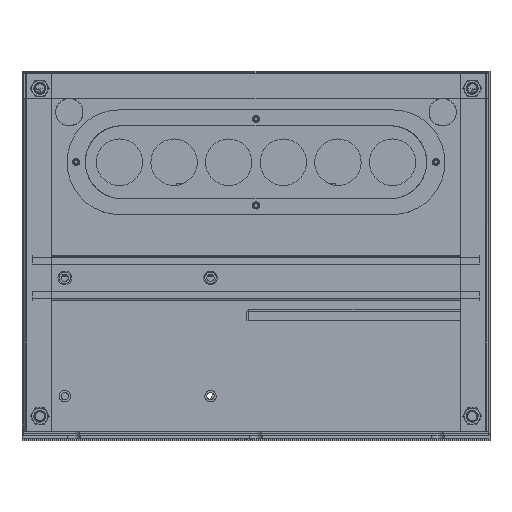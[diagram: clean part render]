
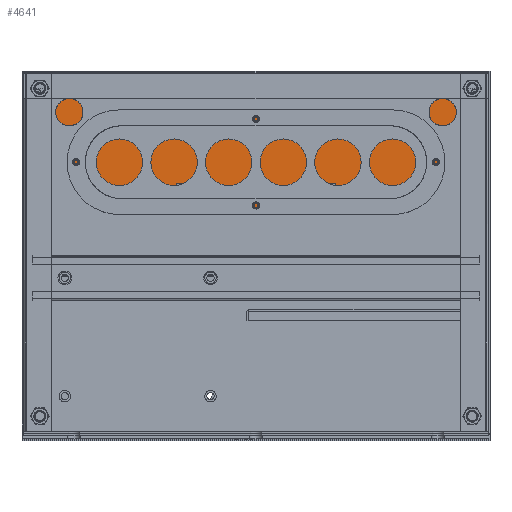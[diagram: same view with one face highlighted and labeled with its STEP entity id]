
A CAD part, top view. The second image highlights one B-rep face of the part: STEP entity #4641.
In plain terms, the highlighted planar face has unit normal (0, 0, 1).
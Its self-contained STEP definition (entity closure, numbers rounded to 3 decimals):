
#1187 = AXIS2_PLACEMENT_3D ( 'NONE', #48820, #60878, #25039 ) ;
#1291 = LINE ( 'NONE', #16608, #15888 ) ;
#4641 = ADVANCED_FACE ( 'NONE', ( #4740 ), #72703, .F. ) ;
#4740 = FACE_OUTER_BOUND ( 'NONE', #76607, .T. ) ;
#7094 = VERTEX_POINT ( 'NONE', #65671 ) ;
#8910 = ORIENTED_EDGE ( 'NONE', *, *, #70777, .F. ) ;
#13900 = VECTOR ( 'NONE', #50246, 1000. ) ;
#15786 = LINE ( 'NONE', #62309, #13900 ) ;
#15888 = VECTOR ( 'NONE', #70007, 1000. ) ;
#16313 = CARTESIAN_POINT ( 'NONE',  ( 255., -2.5, -38. ) ) ;
#16608 = CARTESIAN_POINT ( 'NONE',  ( 255., -2.5, -38. ) ) ;
#16686 = ORIENTED_EDGE ( 'NONE', *, *, #43073, .F. ) ;
#20877 = VERTEX_POINT ( 'NONE', #62660 ) ;
#21196 = EDGE_CURVE ( 'NONE', #51110, #7094, #15786, .T. ) ;
#25039 = DIRECTION ( 'NONE',  ( 0., -1., 0. ) ) ;
#35221 = DIRECTION ( 'NONE',  ( -1., 0., 0. ) ) ;
#37125 = CARTESIAN_POINT ( 'NONE',  ( -255., -220.5, -38. ) ) ;
#40976 = CARTESIAN_POINT ( 'NONE',  ( 255., -220.5, -38. ) ) ;
#42121 = VECTOR ( 'NONE', #71632, 1000. ) ;
#43073 = EDGE_CURVE ( 'NONE', #7094, #56340, #1291, .T. ) ;
#45326 = ORIENTED_EDGE ( 'NONE', *, *, #21196, .F. ) ;
#48820 = CARTESIAN_POINT ( 'NONE',  ( 255., -220.5, -38. ) ) ;
#49056 = EDGE_CURVE ( 'NONE', #20877, #56340, #59941, .T. ) ;
#50246 = DIRECTION ( 'NONE',  ( 0., 1., 0. ) ) ;
#51110 = VERTEX_POINT ( 'NONE', #37125 ) ;
#55855 = VECTOR ( 'NONE', #35221, 1000. ) ;
#56340 = VERTEX_POINT ( 'NONE', #16313 ) ;
#59941 = LINE ( 'NONE', #65883, #42121 ) ;
#60878 = DIRECTION ( 'NONE',  ( 0., 0., -1. ) ) ;
#61915 = ORIENTED_EDGE ( 'NONE', *, *, #49056, .T. ) ;
#62309 = CARTESIAN_POINT ( 'NONE',  ( -255., -111.5, -38. ) ) ;
#62660 = CARTESIAN_POINT ( 'NONE',  ( 255., -220.5, -38. ) ) ;
#65671 = CARTESIAN_POINT ( 'NONE',  ( -255., -2.5, -38. ) ) ;
#65883 = CARTESIAN_POINT ( 'NONE',  ( 255., -111.5, -38. ) ) ;
#70007 = DIRECTION ( 'NONE',  ( 1., 0., 0. ) ) ;
#70777 = EDGE_CURVE ( 'NONE', #20877, #51110, #71826, .T. ) ;
#71632 = DIRECTION ( 'NONE',  ( 0., 1., 0. ) ) ;
#71826 = LINE ( 'NONE', #40976, #55855 ) ;
#72703 = PLANE ( 'NONE',  #1187 ) ;
#76607 = EDGE_LOOP ( 'NONE', ( #45326, #8910, #61915, #16686 ) ) ;
